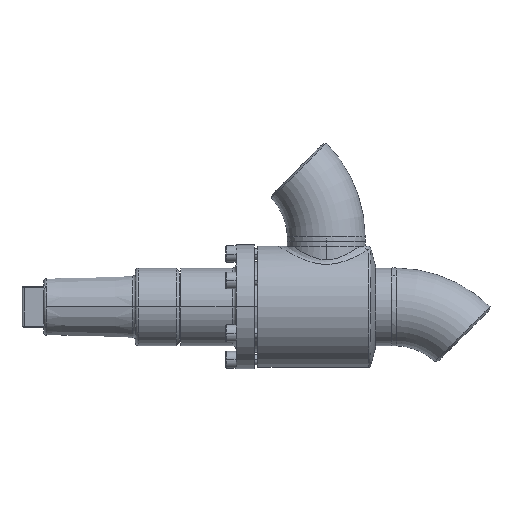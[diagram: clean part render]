
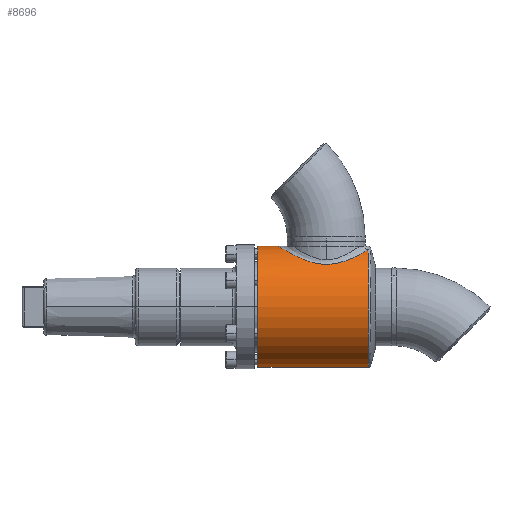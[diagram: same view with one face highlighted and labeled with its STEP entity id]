
A CAD part, left-side view. The second image highlights one B-rep face of the part: STEP entity #8696.
In plain terms, the highlighted cylindrical face has radius 47 mm (diameter 94 mm), a partial arc.
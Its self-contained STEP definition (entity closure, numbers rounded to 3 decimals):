
#33292 = VERTEX_POINT ( 'NONE', #28793 ) ;
#17238 = EDGE_CURVE ( 'NONE', #25228, #33292, #5691, .T. ) ;
#17909 = ORIENTED_EDGE ( 'NONE', *, *, #17238, .F. ) ;
#18756 = VERTEX_POINT ( 'NONE', #30607 ) ;
#19097 = ORIENTED_EDGE ( 'NONE', *, *, #31683, .T. ) ;
#4310 = CARTESIAN_POINT ( 'NONE',  ( 0., 0., -47. ) ) ;
#4759 = ORIENTED_EDGE ( 'NONE', *, *, #23040, .T. ) ;
#5312 = LINE ( 'NONE', #5313, #5314 ) ;
#5313 = CARTESIAN_POINT ( 'NONE',  ( 0., -91., -47. ) ) ;
#5314 = VECTOR ( 'NONE', #5315, 1000. ) ;
#5315 = DIRECTION ( 'NONE',  ( 0., 1., 0. ) ) ;
#5691 = CIRCLE ( 'NONE', #5692, 47. ) ;
#5692 = AXIS2_PLACEMENT_3D ( 'NONE', #5693, #5712, #5713 ) ;
#5693 = CARTESIAN_POINT ( 'NONE',  ( 0., 0., 0. ) ) ;
#5695 = EDGE_CURVE ( 'NONE', #18756, #9643, #27434, .T. ) ;
#5712 = DIRECTION ( 'NONE',  ( 0., 1., 0. ) ) ;
#5713 = DIRECTION ( 'NONE',  ( 0., 0., 1. ) ) ;
#5985 = FACE_OUTER_BOUND ( 'NONE', #8251, .T. ) ;
#5986 = CYLINDRICAL_SURFACE ( 'NONE', #5987, 47. ) ;
#5987 = AXIS2_PLACEMENT_3D ( 'NONE', #5988, #5989, #5990 ) ;
#5988 = CARTESIAN_POINT ( 'NONE',  ( 0., -91., 0. ) ) ;
#5989 = DIRECTION ( 'NONE',  ( 0., 1., 0. ) ) ;
#5990 = DIRECTION ( 'NONE',  ( 0., 0., 1. ) ) ;
#6206 = CARTESIAN_POINT ( 'NONE',  ( 0., -16., 47. ) ) ;
#6364 = ORIENTED_EDGE ( 'NONE', *, *, #5695, .T. ) ;
#6460 = CARTESIAN_POINT ( 'NONE',  ( -16.073, -85.446, 44.166 ) ) ;
#23040 = EDGE_CURVE ( 'NONE', #9643, #31283, #27445, .T. ) ;
#6946 = LINE ( 'NONE', #6947, #6948 ) ;
#6947 = CARTESIAN_POINT ( 'NONE',  ( 0., -91., 47. ) ) ;
#6948 = VECTOR ( 'NONE', #6949, 1000. ) ;
#6949 = DIRECTION ( 'NONE',  ( 0., 1., 0. ) ) ;
#7309 = ORIENTED_EDGE ( 'NONE', *, *, #25639, .F. ) ;
#8251 = EDGE_LOOP ( 'NONE', ( #7309, #6364, #4759, #19097, #17909 ) ) ;
#8696 = ADVANCED_FACE ( 'NONE', ( #5985 ), #5986, .T. ) ;
#25228 = VERTEX_POINT ( 'NONE', #4310 ) ;
#25639 = EDGE_CURVE ( 'NONE', #18756, #25228, #5312, .T. ) ;
#9643 = VERTEX_POINT ( 'NONE', #6460 ) ;
#27434 = CIRCLE ( 'NONE', #27435, 47. ) ;
#27435 = AXIS2_PLACEMENT_3D ( 'NONE', #27436, #27437, #27438 ) ;
#27436 = CARTESIAN_POINT ( 'NONE',  ( 0., -85.446, 0. ) ) ;
#27437 = DIRECTION ( 'NONE',  ( 0., 1., 0. ) ) ;
#27438 = DIRECTION ( 'NONE',  ( 0., 0., -1. ) ) ;
#27445 = B_SPLINE_CURVE_WITH_KNOTS ( 'NONE', 3,
 ( #27446, #27481, #27482, #27483, #27484, #27485, #27486, #27487, #27488, #27489, #27490, #27491, #27492, #27493, #27494, #27495, #27496, #27531, #27532, #27533, #27534, #27535, #27536, #27537, #27538, #27539, #27540, #27541, #27542, #27543, #27544, #27545, #27546, #27583, #27584, #27585, #27586, #27587, #27588, #27589, #27590, #27591, #27592, #27593, #27594, #27595, #27596, #27597, #27598, #27634, #27635, #27636, #27637, #27638, #27639, #27640, #27641, #27642, #27643, #27644, #27645, #27646 ),
 .UNSPECIFIED., .F., .F.,
 ( 4, 2, 2, 2, 2, 2, 2, 2, 2, 2, 2, 2, 2, 2, 2, 2, 2, 2, 2, 2, 2, 2, 2, 2, 2, 2, 2, 2, 2, 2, 4 ),
 ( 0.017, 0.023, 0.026, 0.029, 0.035, 0.039, 0.04, 0.042, 0.048, 0.051, 0.052, 0.054, 0.06, 0.063, 0.066, 0.069, 0.072, 0.078, 0.081, 0.083, 0.084, 0.09, 0.093, 0.095, 0.096, 0.103, 0.106, 0.107, 0.109, 0.112, 0.115 ),
 .UNSPECIFIED. ) ;
#27446 = CARTESIAN_POINT ( 'NONE',  ( -16.073, -85.446, 44.166 ) ) ;
#27481 = CARTESIAN_POINT ( 'NONE',  ( -17.749, -84.43, 43.556 ) ) ;
#27482 = CARTESIAN_POINT ( 'NONE',  ( -19.293, -83.29, 42.887 ) ) ;
#27483 = CARTESIAN_POINT ( 'NONE',  ( -21.444, -81.41, 41.831 ) ) ;
#27484 = CARTESIAN_POINT ( 'NONE',  ( -22.133, -80.755, 41.469 ) ) ;
#27485 = CARTESIAN_POINT ( 'NONE',  ( -23.459, -79.389, 40.734 ) ) ;
#27486 = CARTESIAN_POINT ( 'NONE',  ( -24.096, -78.676, 40.359 ) ) ;
#27487 = CARTESIAN_POINT ( 'NONE',  ( -25.907, -76.48, 39.24 ) ) ;
#27488 = CARTESIAN_POINT ( 'NONE',  ( -26.989, -74.936, 38.497 ) ) ;
#27489 = CARTESIAN_POINT ( 'NONE',  ( -28.44, -72.491, 37.424 ) ) ;
#27490 = CARTESIAN_POINT ( 'NONE',  ( -28.894, -71.655, 37.073 ) ) ;
#27491 = CARTESIAN_POINT ( 'NONE',  ( -29.533, -70.366, 36.563 ) ) ;
#27492 = CARTESIAN_POINT ( 'NONE',  ( -29.739, -69.93, 36.396 ) ) ;
#27493 = CARTESIAN_POINT ( 'NONE',  ( -30.137, -69.047, 36.067 ) ) ;
#27494 = CARTESIAN_POINT ( 'NONE',  ( -30.328, -68.599, 35.906 ) ) ;
#27495 = CARTESIAN_POINT ( 'NONE',  ( -31.243, -66.344, 35.126 ) ) ;
#27496 = CARTESIAN_POINT ( 'NONE',  ( -31.842, -64.482, 34.576 ) ) ;
#27531 = CARTESIAN_POINT ( 'NONE',  ( -32.541, -61.591, 33.914 ) ) ;
#27532 = CARTESIAN_POINT ( 'NONE',  ( -32.74, -60.61, 33.721 ) ) ;
#27533 = CARTESIAN_POINT ( 'NONE',  ( -32.986, -59.111, 33.48 ) ) ;
#27534 = CARTESIAN_POINT ( 'NONE',  ( -33.059, -58.608, 33.408 ) ) ;
#27535 = CARTESIAN_POINT ( 'NONE',  ( -33.186, -57.603, 33.282 ) ) ;
#27536 = CARTESIAN_POINT ( 'NONE',  ( -33.239, -57.1, 33.229 ) ) ;
#27537 = CARTESIAN_POINT ( 'NONE',  ( -33.462, -54.583, 33.006 ) ) ;
#27538 = CARTESIAN_POINT ( 'NONE',  ( -33.49, -52.562, 32.976 ) ) ;
#27539 = CARTESIAN_POINT ( 'NONE',  ( -33.307, -49.52, 33.161 ) ) ;
#27540 = CARTESIAN_POINT ( 'NONE',  ( -33.207, -48.498, 33.262 ) ) ;
#27541 = CARTESIAN_POINT ( 'NONE',  ( -32.933, -46.49, 33.532 ) ) ;
#27542 = CARTESIAN_POINT ( 'NONE',  ( -32.761, -45.501, 33.702 ) ) ;
#27543 = CARTESIAN_POINT ( 'NONE',  ( -32.346, -43.55, 34.1 ) ) ;
#27544 = CARTESIAN_POINT ( 'NONE',  ( -32.103, -42.587, 34.33 ) ) ;
#27545 = CARTESIAN_POINT ( 'NONE',  ( -31.549, -40.688, 34.839 ) ) ;
#27546 = CARTESIAN_POINT ( 'NONE',  ( -31.237, -39.749, 35.121 ) ) ;
#27583 = CARTESIAN_POINT ( 'NONE',  ( -30.211, -37.009, 36.016 ) ) ;
#27584 = CARTESIAN_POINT ( 'NONE',  ( -29.406, -35.272, 36.683 ) ) ;
#27585 = CARTESIAN_POINT ( 'NONE',  ( -28.021, -32.781, 37.738 ) ) ;
#27586 = CARTESIAN_POINT ( 'NONE',  ( -27.529, -31.97, 38.099 ) ) ;
#27587 = CARTESIAN_POINT ( 'NONE',  ( -26.744, -30.781, 38.65 ) ) ;
#27588 = CARTESIAN_POINT ( 'NONE',  ( -26.475, -30.389, 38.835 ) ) ;
#27589 = CARTESIAN_POINT ( 'NONE',  ( -25.92, -29.615, 39.208 ) ) ;
#27590 = CARTESIAN_POINT ( 'NONE',  ( -25.634, -29.233, 39.396 ) ) ;
#27591 = CARTESIAN_POINT ( 'NONE',  ( -24.175, -27.357, 40.33 ) ) ;
#27592 = CARTESIAN_POINT ( 'NONE',  ( -22.902, -25.964, 41.072 ) ) ;
#27593 = CARTESIAN_POINT ( 'NONE',  ( -20.822, -24.029, 42.143 ) ) ;
#27594 = CARTESIAN_POINT ( 'NONE',  ( -20.099, -23.411, 42.494 ) ) ;
#27595 = CARTESIAN_POINT ( 'NONE',  ( -18.969, -22.523, 43.004 ) ) ;
#27596 = CARTESIAN_POINT ( 'NONE',  ( -18.584, -22.235, 43.172 ) ) ;
#27597 = CARTESIAN_POINT ( 'NONE',  ( -17.798, -21.671, 43.502 ) ) ;
#27598 = CARTESIAN_POINT ( 'NONE',  ( -17.396, -21.396, 43.664 ) ) ;
#27634 = CARTESIAN_POINT ( 'NONE',  ( -15.356, -20.064, 44.455 ) ) ;
#27635 = CARTESIAN_POINT ( 'NONE',  ( -13.635, -19.147, 45.018 ) ) ;
#27636 = CARTESIAN_POINT ( 'NONE',  ( -10.906, -18.006, 45.727 ) ) ;
#27637 = CARTESIAN_POINT ( 'NONE',  ( -9.972, -17.666, 45.94 ) ) ;
#27638 = CARTESIAN_POINT ( 'NONE',  ( -8.53, -17.219, 46.222 ) ) ;
#27639 = CARTESIAN_POINT ( 'NONE',  ( -8.041, -17.081, 46.31 ) ) ;
#27640 = CARTESIAN_POINT ( 'NONE',  ( -7.058, -16.829, 46.47 ) ) ;
#27641 = CARTESIAN_POINT ( 'NONE',  ( -6.563, -16.715, 46.542 ) ) ;
#27642 = CARTESIAN_POINT ( 'NONE',  ( -5.066, -16.41, 46.737 ) ) ;
#27643 = CARTESIAN_POINT ( 'NONE',  ( -4.049, -16.255, 46.836 ) ) ;
#27644 = CARTESIAN_POINT ( 'NONE',  ( -2.024, -16.051, 46.967 ) ) ;
#27645 = CARTESIAN_POINT ( 'NONE',  ( -1.011, -16., 47. ) ) ;
#27646 = CARTESIAN_POINT ( 'NONE',  ( 0., -16., 47. ) ) ;
#28793 = CARTESIAN_POINT ( 'NONE',  ( 0., 0., 47. ) ) ;
#30607 = CARTESIAN_POINT ( 'NONE',  ( 0., -85.446, -47. ) ) ;
#31283 = VERTEX_POINT ( 'NONE', #6206 ) ;
#31683 = EDGE_CURVE ( 'NONE', #31283, #33292, #6946, .T. ) ;
